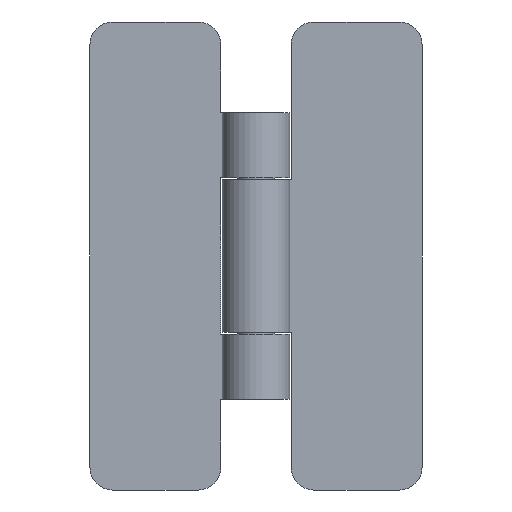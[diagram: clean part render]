
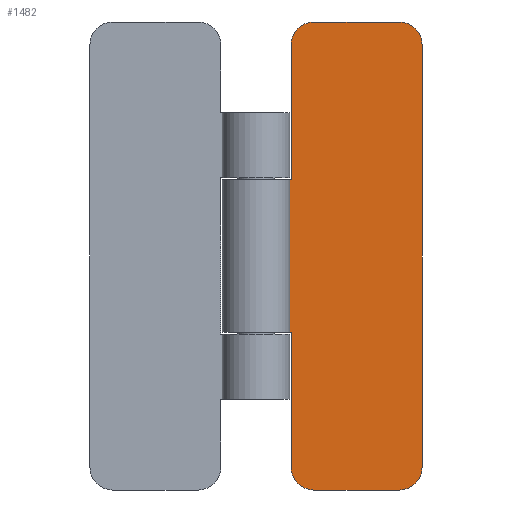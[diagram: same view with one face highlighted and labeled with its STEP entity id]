
A CAD part, front view. The second image highlights one B-rep face of the part: STEP entity #1482.
In plain terms, the highlighted planar face has unit normal (0, -1, 0).
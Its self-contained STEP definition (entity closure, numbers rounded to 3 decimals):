
#1297=CARTESIAN_POINT('',(0.0,2.45,8.917));
#1298=VERTEX_POINT('',#1297);
#1306=CARTESIAN_POINT('',(0.0,2.45,29.083));
#1307=VERTEX_POINT('',#1306);
#1308=CARTESIAN_POINT('',(0.0,2.45,29.083));
#1309=DIRECTION('',(0.0,0.0,-1.0));
#1310=VECTOR('',#1309,20.167);
#1311=LINE('',#1308,#1310);
#1312=EDGE_CURVE('',#1307,#1298,#1311,.T.);
#1357=CARTESIAN_POINT('',(4.65,2.45,-9.0));
#1358=VERTEX_POINT('',#1357);
#1359=CARTESIAN_POINT('',(7.65,2.45,-12.0));
#1360=VERTEX_POINT('',#1359);
#1361=CARTESIAN_POINT('',(7.65,2.45,-9.0));
#1362=DIRECTION('',(0.0,-1.0,0.0));
#1363=DIRECTION('',(-1.0,0.0,0.0));
#1364=AXIS2_PLACEMENT_3D('',#1361,#1362,#1363);
#1365=CIRCLE('',#1364,3.0);
#1366=EDGE_CURVE('',#1358,#1360,#1365,.T.);
#1394=CARTESIAN_POINT('',(0.0,2.45,50.0));
#1395=DIRECTION('',(0.0,-1.0,0.0));
#1396=DIRECTION('',(0.0,0.0,-1.0));
#1397=AXIS2_PLACEMENT_3D('',#1394,#1395,#1396);
#1398=PLANE('',#1397);
#1399=ORIENTED_EDGE('',*,*,#1366,.T.);
#1400=CARTESIAN_POINT('',(19.0,2.45,-12.0));
#1401=VERTEX_POINT('',#1400);
#1402=CARTESIAN_POINT('',(7.65,2.45,-12.0));
#1403=DIRECTION('',(1.0,0.0,0.0));
#1404=VECTOR('',#1403,11.35);
#1405=LINE('',#1402,#1404);
#1406=EDGE_CURVE('',#1360,#1401,#1405,.T.);
#1407=ORIENTED_EDGE('',*,*,#1406,.T.);
#1408=CARTESIAN_POINT('',(22.0,2.45,-9.));
#1409=VERTEX_POINT('',#1408);
#1410=CARTESIAN_POINT('',(19.0,2.45,-9.0));
#1411=DIRECTION('',(0.0,-1.0,0.0));
#1412=DIRECTION('',(1.0,0.0,0.0));
#1413=AXIS2_PLACEMENT_3D('',#1410,#1411,#1412);
#1414=CIRCLE('',#1413,3.0);
#1415=EDGE_CURVE('',#1401,#1409,#1414,.T.);
#1416=ORIENTED_EDGE('',*,*,#1415,.T.);
#1417=CARTESIAN_POINT('',(22.0,2.45,47.0));
#1418=VERTEX_POINT('',#1417);
#1419=CARTESIAN_POINT('',(22.0,2.45,47.0));
#1420=DIRECTION('',(0.0,0.0,-1.0));
#1421=VECTOR('',#1420,56.);
#1422=LINE('',#1419,#1421);
#1423=EDGE_CURVE('',#1418,#1409,#1422,.T.);
#1424=ORIENTED_EDGE('',*,*,#1423,.F.);
#1425=CARTESIAN_POINT('',(19.0,2.45,50.0));
#1426=VERTEX_POINT('',#1425);
#1427=CARTESIAN_POINT('',(19.0,2.45,47.0));
#1428=DIRECTION('',(0.0,-1.0,0.0));
#1429=DIRECTION('',(1.0,0.0,0.0));
#1430=AXIS2_PLACEMENT_3D('',#1427,#1428,#1429);
#1431=CIRCLE('',#1430,3.0);
#1432=EDGE_CURVE('',#1418,#1426,#1431,.T.);
#1433=ORIENTED_EDGE('',*,*,#1432,.T.);
#1434=CARTESIAN_POINT('',(7.65,2.45,50.0));
#1435=VERTEX_POINT('',#1434);
#1436=CARTESIAN_POINT('',(7.65,2.45,50.0));
#1437=DIRECTION('',(1.0,0.0,0.0));
#1438=VECTOR('',#1437,11.35);
#1439=LINE('',#1436,#1438);
#1440=EDGE_CURVE('',#1435,#1426,#1439,.T.);
#1441=ORIENTED_EDGE('',*,*,#1440,.F.);
#1442=CARTESIAN_POINT('',(4.65,2.45,47.0));
#1443=VERTEX_POINT('',#1442);
#1444=CARTESIAN_POINT('',(7.65,2.45,47.0));
#1445=DIRECTION('',(0.0,-1.0,0.0));
#1446=DIRECTION('',(0.0,0.0,1.0));
#1447=AXIS2_PLACEMENT_3D('',#1444,#1445,#1446);
#1448=CIRCLE('',#1447,3.0);
#1449=EDGE_CURVE('',#1435,#1443,#1448,.T.);
#1450=ORIENTED_EDGE('',*,*,#1449,.T.);
#1451=CARTESIAN_POINT('',(4.65,2.45,29.083));
#1452=VERTEX_POINT('',#1451);
#1453=CARTESIAN_POINT('',(4.65,2.45,47.0));
#1454=DIRECTION('',(0.0,0.0,-1.0));
#1455=VECTOR('',#1454,17.917);
#1456=LINE('',#1453,#1455);
#1457=EDGE_CURVE('',#1443,#1452,#1456,.T.);
#1458=ORIENTED_EDGE('',*,*,#1457,.T.);
#1459=CARTESIAN_POINT('',(4.65,2.45,29.083));
#1460=DIRECTION('',(-1.0,0.0,0.0));
#1461=VECTOR('',#1460,4.65);
#1462=LINE('',#1459,#1461);
#1463=EDGE_CURVE('',#1452,#1307,#1462,.T.);
#1464=ORIENTED_EDGE('',*,*,#1463,.T.);
#1465=ORIENTED_EDGE('',*,*,#1312,.T.);
#1466=CARTESIAN_POINT('',(4.65,2.45,8.917));
#1467=VERTEX_POINT('',#1466);
#1468=CARTESIAN_POINT('',(0.0,2.45,8.917));
#1469=DIRECTION('',(1.0,0.0,0.0));
#1470=VECTOR('',#1469,4.65);
#1471=LINE('',#1468,#1470);
#1472=EDGE_CURVE('',#1298,#1467,#1471,.T.);
#1473=ORIENTED_EDGE('',*,*,#1472,.T.);
#1474=CARTESIAN_POINT('',(4.65,2.45,8.917));
#1475=DIRECTION('',(0.0,0.0,-1.0));
#1476=VECTOR('',#1475,17.917);
#1477=LINE('',#1474,#1476);
#1478=EDGE_CURVE('',#1467,#1358,#1477,.T.);
#1479=ORIENTED_EDGE('',*,*,#1478,.T.);
#1480=EDGE_LOOP('',(#1399,#1407,#1416,#1424,#1433,#1441,#1450,#1458,#1464,#1465,#1473,#1479));
#1481=FACE_OUTER_BOUND('',#1480,.T.);
#1482=ADVANCED_FACE('',(#1481),#1398,.T.);
